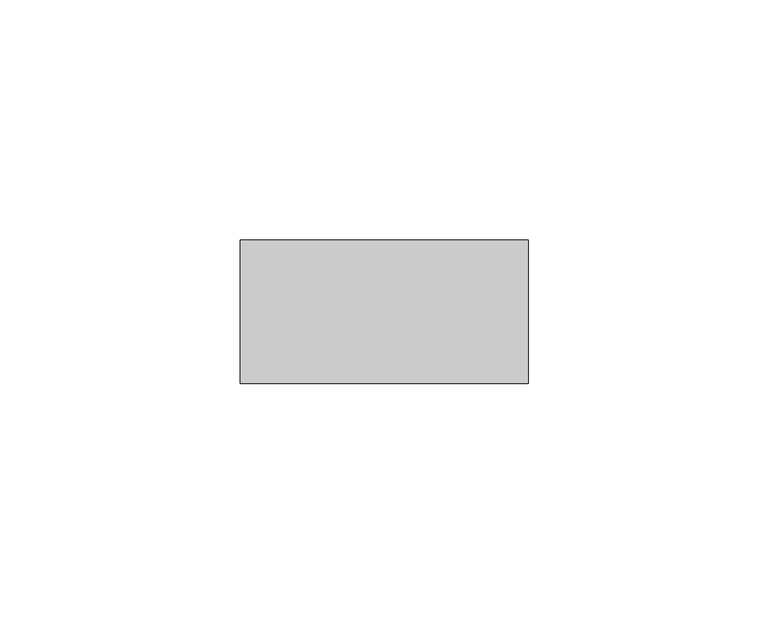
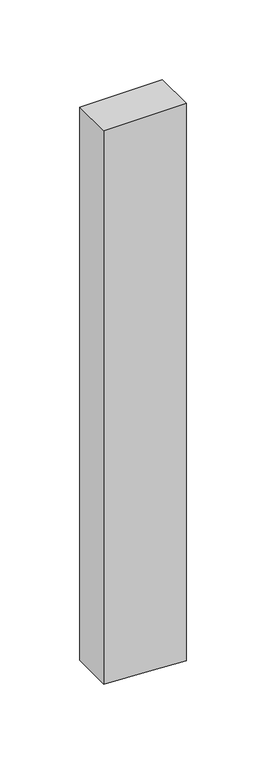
"""IFC4 building model written with IfcOpenShell, lengths in millimetres: member geometry, Прямоугольный импост : Квадрат 30 мм."""

from ifc_helpers import new_model, si_unit, frame, origin, place, context, project, spatial, polyline, outline, extrude, source, transform, mapped, element, save


def member_fcbc8fe4(model_context):
    return source(origin(), model_context, "Body", "SweptSolid", [
        extrude(outline(polyline([(0.0, 30.0), (0.0, -30.0), (-423.9914723, -30.0), (-425.7976173, 2.753035), (-427.3001336, 30.0), (0.0, 30.0)])), frame((0.0, -15.0, 0.0), z_axis=(0.0, 1.0, 0.0), x_axis=(0.0, 0.0, 1.0)), (0.0, 0.0, 1.0), 30.0),
    ])


if __name__ == "__main__":
    model = new_model("IFC4")
    model_context = context("Model", 3, world=origin())
    ifc_project = project(units=[si_unit("LENGTHUNIT", "METRE", prefix="MILLI")], contexts=[model_context])
    site = spatial("IfcSite", under=ifc_project)
    building = spatial("IfcBuilding", under=site)
    placement = place(None, origin())
    member_shape = member_fcbc8fe4(model_context)
    element("IfcMember", 1, ObjectType="Прямоугольный импост : Квадрат 30 мм", at=placement, inside=building, context=model_context, shape_type="MappedRepresentation", body=[
        mapped(member_shape, transform((0.0, 0.0, 0.0), x_axis=(1.0, 0.0, 0.0), y_axis=(0.0, 1.0, 0.0), z_axis=(0.0, 0.0, 1.0))),
    ])
    save(model, "model.ifc")
